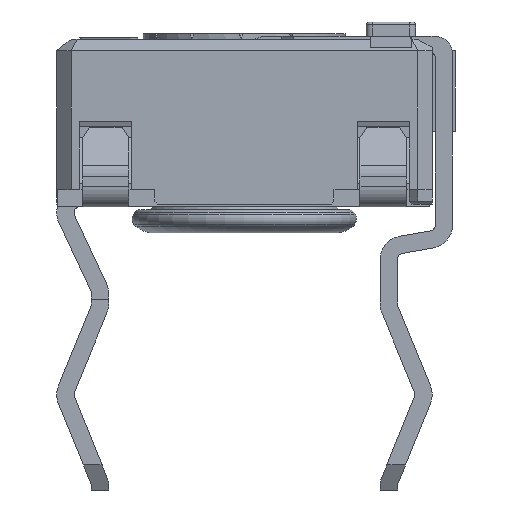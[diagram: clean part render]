
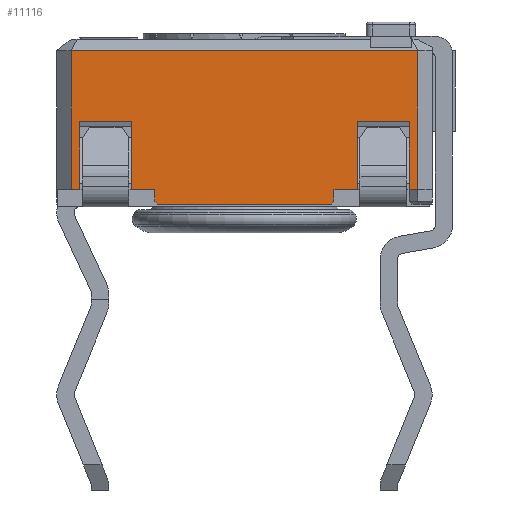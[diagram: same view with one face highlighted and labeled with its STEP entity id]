
A CAD part, left-side view. The second image highlights one B-rep face of the part: STEP entity #11116.
In plain terms, the highlighted planar face has unit normal (-1, 0, 0).
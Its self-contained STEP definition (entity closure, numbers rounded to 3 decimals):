
#1000=FACE_OUTER_BOUND('',#1594,.T.);
#1594=EDGE_LOOP('',(#9513,#9514,#9515,#9516,#9517,#9518,#9519,#9520,#9521,
#9522,#9523,#9524,#9525,#9526,#9527,#9528,#9529,#9530));
#2314=LINE('',#16878,#3570);
#2433=LINE('',#17141,#3689);
#2439=LINE('',#17154,#3695);
#2445=LINE('',#17165,#3701);
#2451=LINE('',#17176,#3707);
#2456=LINE('',#17186,#3712);
#2459=LINE('',#17192,#3715);
#2491=LINE('',#17254,#3747);
#2515=LINE('',#17309,#3771);
#2527=LINE('',#17329,#3783);
#2529=LINE('',#17334,#3785);
#2538=LINE('',#17353,#3794);
#2540=LINE('',#17356,#3796);
#2560=LINE('',#17397,#3816);
#2738=LINE('',#17843,#3994);
#2751=LINE('',#17867,#4007);
#2752=LINE('',#17869,#4008);
#2753=LINE('',#17871,#4009);
#3570=VECTOR('',#13651,10.);
#3689=VECTOR('',#13836,10.);
#3695=VECTOR('',#13844,10.);
#3701=VECTOR('',#13850,10.);
#3707=VECTOR('',#13858,10.);
#3712=VECTOR('',#13865,10.);
#3715=VECTOR('',#13870,10.);
#3747=VECTOR('',#13912,10.);
#3771=VECTOR('',#13964,10.);
#3783=VECTOR('',#13984,10.);
#3785=VECTOR('',#13988,10.);
#3794=VECTOR('',#14009,10.);
#3796=VECTOR('',#14013,10.);
#3816=VECTOR('',#14047,10.);
#3994=VECTOR('',#14475,10.);
#4007=VECTOR('',#14496,10.);
#4008=VECTOR('',#14499,10.);
#4009=VECTOR('',#14502,10.);
#4768=VERTEX_POINT('',#16875);
#4769=VERTEX_POINT('',#16877);
#4879=VERTEX_POINT('',#17138);
#4880=VERTEX_POINT('',#17140);
#4884=VERTEX_POINT('',#17150);
#4886=VERTEX_POINT('',#17153);
#4891=VERTEX_POINT('',#17163);
#4894=VERTEX_POINT('',#17173);
#4898=VERTEX_POINT('',#17183);
#4901=VERTEX_POINT('',#17190);
#4924=VERTEX_POINT('',#17241);
#4926=VERTEX_POINT('',#17253);
#4943=VERTEX_POINT('',#17305);
#4948=VERTEX_POINT('',#17331);
#4953=VERTEX_POINT('',#17352);
#5088=VERTEX_POINT('',#17840);
#5089=VERTEX_POINT('',#17842);
#5096=VERTEX_POINT('',#17865);
#6055=EDGE_CURVE('',#4769,#4768,#2314,.T.);
#6190=EDGE_CURVE('',#4880,#4879,#2433,.T.);
#6196=EDGE_CURVE('',#4886,#4884,#2439,.T.);
#6202=EDGE_CURVE('',#4879,#4891,#2445,.T.);
#6208=EDGE_CURVE('',#4884,#4894,#2451,.T.);
#6213=EDGE_CURVE('',#4894,#4898,#2456,.T.);
#6216=EDGE_CURVE('',#4898,#4901,#2459,.T.);
#6248=EDGE_CURVE('',#4926,#4880,#2491,.T.);
#6278=EDGE_CURVE('',#4768,#4926,#2515,.T.);
#6290=EDGE_CURVE('',#4769,#4943,#2527,.T.);
#6292=EDGE_CURVE('',#4891,#4948,#2529,.T.);
#6301=EDGE_CURVE('',#4953,#4924,#2538,.T.);
#6303=EDGE_CURVE('',#4943,#4924,#2540,.T.);
#6324=EDGE_CURVE('',#4901,#4953,#2560,.T.);
#6543=EDGE_CURVE('',#5088,#5089,#2738,.T.);
#6556=EDGE_CURVE('',#5096,#4948,#2751,.T.);
#6557=EDGE_CURVE('',#5096,#5089,#2752,.T.);
#6558=EDGE_CURVE('',#5088,#4886,#2753,.T.);
#9513=ORIENTED_EDGE('',*,*,#6556,.F.);
#9514=ORIENTED_EDGE('',*,*,#6557,.T.);
#9515=ORIENTED_EDGE('',*,*,#6543,.F.);
#9516=ORIENTED_EDGE('',*,*,#6558,.T.);
#9517=ORIENTED_EDGE('',*,*,#6196,.T.);
#9518=ORIENTED_EDGE('',*,*,#6208,.T.);
#9519=ORIENTED_EDGE('',*,*,#6213,.T.);
#9520=ORIENTED_EDGE('',*,*,#6216,.T.);
#9521=ORIENTED_EDGE('',*,*,#6324,.T.);
#9522=ORIENTED_EDGE('',*,*,#6301,.T.);
#9523=ORIENTED_EDGE('',*,*,#6303,.F.);
#9524=ORIENTED_EDGE('',*,*,#6290,.F.);
#9525=ORIENTED_EDGE('',*,*,#6055,.T.);
#9526=ORIENTED_EDGE('',*,*,#6278,.T.);
#9527=ORIENTED_EDGE('',*,*,#6248,.T.);
#9528=ORIENTED_EDGE('',*,*,#6190,.T.);
#9529=ORIENTED_EDGE('',*,*,#6202,.T.);
#9530=ORIENTED_EDGE('',*,*,#6292,.T.);
#10327=PLANE('',#11952);
#11116=ADVANCED_FACE('',(#1000),#10327,.T.);
#11952=AXIS2_PLACEMENT_3D('',#18052,#14704,#14705);
#13651=DIRECTION('',(0.,-1.,0.));
#13836=DIRECTION('',(0.,0.,-1.));
#13844=DIRECTION('',(0.,-1.,0.));
#13850=DIRECTION('',(0.,-1.,0.));
#13858=DIRECTION('',(0.,0.,1.));
#13865=DIRECTION('',(0.,-1.,0.));
#13870=DIRECTION('',(0.,0.,-1.));
#13912=DIRECTION('',(0.,-1.,0.));
#13964=DIRECTION('',(0.,0.,1.));
#13984=DIRECTION('',(0.,0.,1.));
#13988=DIRECTION('',(0.,0.,-1.));
#14009=DIRECTION('',(0.,0.,1.));
#14013=DIRECTION('',(0.,-1.,0.));
#14047=DIRECTION('',(0.,-1.,0.));
#14475=DIRECTION('',(0.,0.707,-0.707));
#14496=DIRECTION('',(0.,0.707,0.707));
#14499=DIRECTION('',(0.,-1.,0.));
#14502=DIRECTION('',(0.,0.,1.));
#14704=DIRECTION('center_axis',(-1.,0.,0.));
#14705=DIRECTION('ref_axis',(0.,0.,1.));
#16875=CARTESIAN_POINT('',(-14.26,-8.882,0.25));
#16877=CARTESIAN_POINT('',(-14.26,-8.732,0.25));
#16878=CARTESIAN_POINT('',(-14.26,-13.244,0.25));
#17138=CARTESIAN_POINT('',(-14.26,-9.782,0.25));
#17140=CARTESIAN_POINT('',(-14.26,-9.782,1.425));
#17141=CARTESIAN_POINT('',(-14.26,-9.782,0.387));
#17150=CARTESIAN_POINT('',(-14.26,-13.682,0.25));
#17153=CARTESIAN_POINT('',(-14.26,-13.282,0.25));
#17154=CARTESIAN_POINT('',(-14.26,-13.244,0.25));
#17163=CARTESIAN_POINT('',(-14.26,-10.182,0.25));
#17165=CARTESIAN_POINT('',(-14.26,-13.244,0.25));
#17173=CARTESIAN_POINT('',(-14.26,-13.682,1.425));
#17176=CARTESIAN_POINT('',(-14.26,-13.682,0.387));
#17183=CARTESIAN_POINT('',(-14.26,-14.582,1.425));
#17186=CARTESIAN_POINT('',(-14.26,-14.657,1.425));
#17190=CARTESIAN_POINT('',(-14.26,-14.582,0.25));
#17192=CARTESIAN_POINT('',(-14.26,-14.582,0.387));
#17241=CARTESIAN_POINT('',(-14.26,-14.732,2.655));
#17253=CARTESIAN_POINT('',(-14.26,-8.882,1.425));
#17254=CARTESIAN_POINT('',(-14.26,-11.807,1.425));
#17305=CARTESIAN_POINT('',(-14.26,-8.732,2.655));
#17309=CARTESIAN_POINT('',(-14.26,-8.882,0.387));
#17329=CARTESIAN_POINT('',(-14.26,-8.732,0.));
#17331=CARTESIAN_POINT('',(-14.26,-10.182,0.05));
#17334=CARTESIAN_POINT('',(-14.26,-10.182,0.));
#17352=CARTESIAN_POINT('',(-14.26,-14.732,0.25));
#17353=CARTESIAN_POINT('',(-14.26,-14.732,0.));
#17356=CARTESIAN_POINT('',(-14.26,-13.232,2.655));
#17397=CARTESIAN_POINT('',(-14.26,-13.244,0.25));
#17840=CARTESIAN_POINT('',(-14.26,-13.282,0.05));
#17842=CARTESIAN_POINT('',(-14.26,-13.232,0.));
#17843=CARTESIAN_POINT('',(-14.26,-13.619,0.388));
#17865=CARTESIAN_POINT('',(-14.26,-10.232,0.));
#17867=CARTESIAN_POINT('',(-14.26,-11.344,-1.113));
#17869=CARTESIAN_POINT('',(-14.26,-8.732,0.));
#17871=CARTESIAN_POINT('',(-14.26,-13.282,0.));
#18052=CARTESIAN_POINT('Origin',(-14.26,-14.732,0.));
